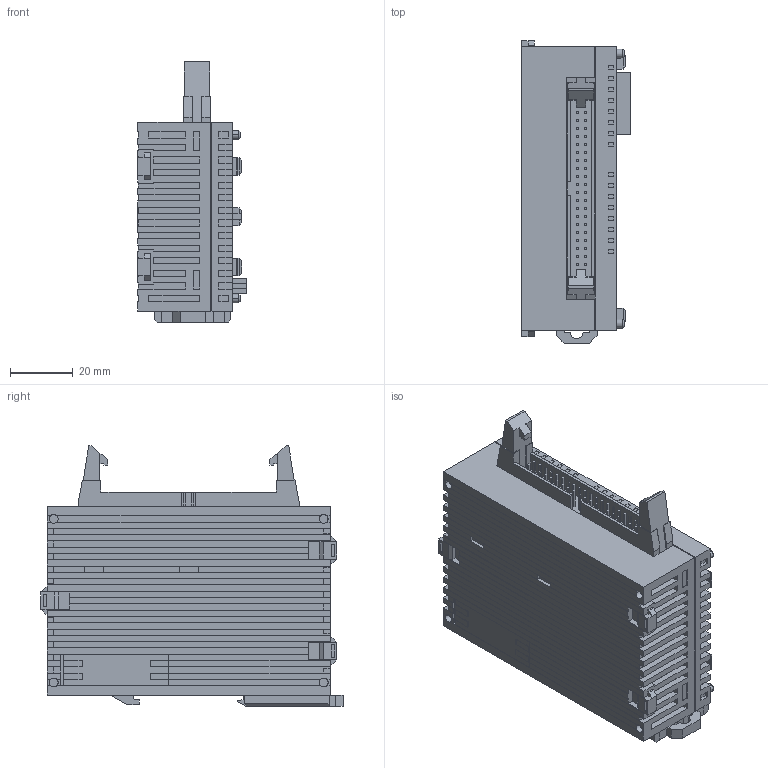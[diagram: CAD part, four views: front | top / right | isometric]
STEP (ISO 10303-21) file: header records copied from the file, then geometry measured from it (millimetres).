
FILE_DESCRIPTION (( 'STEP AP203' ), '1' );
FILE_NAME ('afpg430.STEP', '2013-07-17T06:38:50', ( 'sunx' ), ( 'sunx' ), 'SwSTEP 2.0', 'SolidWorks 2010', '' );
FILE_SCHEMA (( 'CONFIG_CONTROL_DESIGN' ));
Length unit declared in the file: millimetre
Products named in the file (1): afpg430
Bounding box: 34.5 x 96.1 x 82.7 mm (x, y, z)
Volume: 162578.6 mm3; surface area: 31083 mm2
Topology: 1 solids, 1 shells, 1037 faces, 2771 edges, 1834 vertices
Faces by surface type: plane 996, cylinder 33, cone 8
Entity records: 31752 total; most frequent: CARTESIAN_POINT 5643, ORIENTED_EDGE 5542, DIRECTION 4945, EDGE_CURVE 2771, LINE 2673, VECTOR 2673, VERTEX_POINT 1834, EDGE_LOOP 1141
